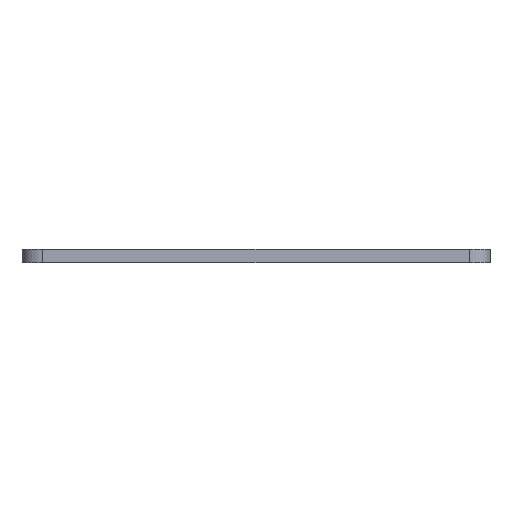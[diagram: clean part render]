
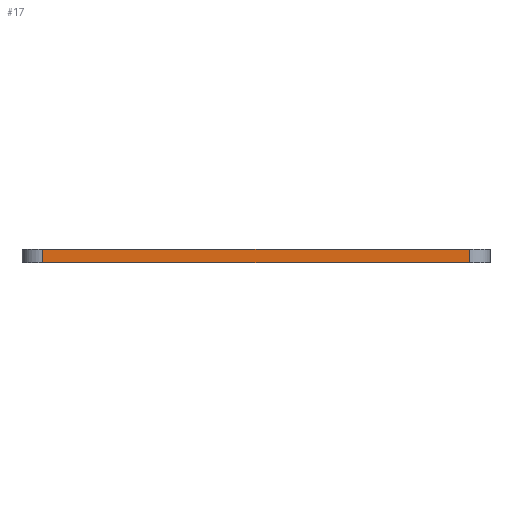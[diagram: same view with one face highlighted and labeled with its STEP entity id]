
A CAD part, left-side view. The second image highlights one B-rep face of the part: STEP entity #17.
In plain terms, the highlighted planar face has unit normal (-1, 0, 0).
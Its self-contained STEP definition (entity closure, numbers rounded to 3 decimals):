
#17 = ADVANCED_FACE('',(#18),#32,.T.);
#18 = FACE_BOUND('',#19,.T.);
#19 = EDGE_LOOP('',(#20,#55,#83,#111));
#20 = ORIENTED_EDGE('',*,*,#21,.T.);
#21 = EDGE_CURVE('',#22,#24,#26,.T.);
#22 = VERTEX_POINT('',#23);
#23 = CARTESIAN_POINT('',(-8.175,-18.913,-5.1));
#24 = VERTEX_POINT('',#25);
#25 = CARTESIAN_POINT('',(-8.175,-18.913,-4.75));
#26 = SURFACE_CURVE('',#27,(#31,#43),.PCURVE_S1.);
#27 = LINE('',#28,#29);
#28 = CARTESIAN_POINT('',(-8.175,-18.913,-5.1));
#29 = VECTOR('',#30,1.);
#30 = DIRECTION('',(0.,0.,1.));
#31 = PCURVE('',#32,#37);
#32 = PLANE('',#33);
#33 = AXIS2_PLACEMENT_3D('',#34,#35,#36);
#34 = CARTESIAN_POINT('',(-8.175,-18.913,-5.1));
#35 = DIRECTION('',(-1.,0.,0.));
#36 = DIRECTION('',(0.,1.,0.));
#37 = DEFINITIONAL_REPRESENTATION('',(#38),#42);
#38 = LINE('',#39,#40);
#39 = CARTESIAN_POINT('',(0.,0.));
#40 = VECTOR('',#41,1.);
#41 = DIRECTION('',(0.,-1.));
#42 = ( GEOMETRIC_REPRESENTATION_CONTEXT(2) 
PARAMETRIC_REPRESENTATION_CONTEXT() REPRESENTATION_CONTEXT('2D SPACE',''
  ) );
#43 = PCURVE('',#44,#49);
#44 = CYLINDRICAL_SURFACE('',#45,0.55);
#45 = AXIS2_PLACEMENT_3D('',#46,#47,#48);
#46 = CARTESIAN_POINT('',(-7.625,-18.913,-5.1));
#47 = DIRECTION('',(-0.,-0.,-1.));
#48 = DIRECTION('',(1.,0.,0.));
#49 = DEFINITIONAL_REPRESENTATION('',(#50),#54);
#50 = LINE('',#51,#52);
#51 = CARTESIAN_POINT('',(-3.142,0.));
#52 = VECTOR('',#53,1.);
#53 = DIRECTION('',(-0.,-1.));
#54 = ( GEOMETRIC_REPRESENTATION_CONTEXT(2) 
PARAMETRIC_REPRESENTATION_CONTEXT() REPRESENTATION_CONTEXT('2D SPACE',''
  ) );
#55 = ORIENTED_EDGE('',*,*,#56,.T.);
#56 = EDGE_CURVE('',#24,#57,#59,.T.);
#57 = VERTEX_POINT('',#58);
#58 = CARTESIAN_POINT('',(-8.175,-7.563,-4.75));
#59 = SURFACE_CURVE('',#60,(#64,#71),.PCURVE_S1.);
#60 = LINE('',#61,#62);
#61 = CARTESIAN_POINT('',(-8.175,-13.238,-4.75));
#62 = VECTOR('',#63,1.);
#63 = DIRECTION('',(0.,1.,0.));
#64 = PCURVE('',#32,#65);
#65 = DEFINITIONAL_REPRESENTATION('',(#66),#70);
#66 = LINE('',#67,#68);
#67 = CARTESIAN_POINT('',(5.675,-0.35));
#68 = VECTOR('',#69,1.);
#69 = DIRECTION('',(1.,0.));
#70 = ( GEOMETRIC_REPRESENTATION_CONTEXT(2) 
PARAMETRIC_REPRESENTATION_CONTEXT() REPRESENTATION_CONTEXT('2D SPACE',''
  ) );
#71 = PCURVE('',#72,#77);
#72 = PLANE('',#73);
#73 = AXIS2_PLACEMENT_3D('',#74,#75,#76);
#74 = CARTESIAN_POINT('',(0.,-13.238,-4.75));
#75 = DIRECTION('',(0.,0.,1.));
#76 = DIRECTION('',(1.,0.,0.));
#77 = DEFINITIONAL_REPRESENTATION('',(#78),#82);
#78 = LINE('',#79,#80);
#79 = CARTESIAN_POINT('',(-8.175,0.));
#80 = VECTOR('',#81,1.);
#81 = DIRECTION('',(0.,1.));
#82 = ( GEOMETRIC_REPRESENTATION_CONTEXT(2) 
PARAMETRIC_REPRESENTATION_CONTEXT() REPRESENTATION_CONTEXT('2D SPACE',''
  ) );
#83 = ORIENTED_EDGE('',*,*,#84,.F.);
#84 = EDGE_CURVE('',#85,#57,#87,.T.);
#85 = VERTEX_POINT('',#86);
#86 = CARTESIAN_POINT('',(-8.175,-7.563,-5.1));
#87 = SURFACE_CURVE('',#88,(#92,#99),.PCURVE_S1.);
#88 = LINE('',#89,#90);
#89 = CARTESIAN_POINT('',(-8.175,-7.563,-5.1));
#90 = VECTOR('',#91,1.);
#91 = DIRECTION('',(0.,0.,1.));
#92 = PCURVE('',#32,#93);
#93 = DEFINITIONAL_REPRESENTATION('',(#94),#98);
#94 = LINE('',#95,#96);
#95 = CARTESIAN_POINT('',(11.35,0.));
#96 = VECTOR('',#97,1.);
#97 = DIRECTION('',(0.,-1.));
#98 = ( GEOMETRIC_REPRESENTATION_CONTEXT(2) 
PARAMETRIC_REPRESENTATION_CONTEXT() REPRESENTATION_CONTEXT('2D SPACE',''
  ) );
#99 = PCURVE('',#100,#105);
#100 = CYLINDRICAL_SURFACE('',#101,0.55);
#101 = AXIS2_PLACEMENT_3D('',#102,#103,#104);
#102 = CARTESIAN_POINT('',(-7.625,-7.563,-5.1));
#103 = DIRECTION('',(-0.,-0.,-1.));
#104 = DIRECTION('',(1.,0.,0.));
#105 = DEFINITIONAL_REPRESENTATION('',(#106),#110);
#106 = LINE('',#107,#108);
#107 = CARTESIAN_POINT('',(-3.142,0.));
#108 = VECTOR('',#109,1.);
#109 = DIRECTION('',(-0.,-1.));
#110 = ( GEOMETRIC_REPRESENTATION_CONTEXT(2) 
PARAMETRIC_REPRESENTATION_CONTEXT() REPRESENTATION_CONTEXT('2D SPACE',''
  ) );
#111 = ORIENTED_EDGE('',*,*,#112,.F.);
#112 = EDGE_CURVE('',#22,#85,#113,.T.);
#113 = SURFACE_CURVE('',#114,(#118,#125),.PCURVE_S1.);
#114 = LINE('',#115,#116);
#115 = CARTESIAN_POINT('',(-8.175,-13.238,-5.1));
#116 = VECTOR('',#117,1.);
#117 = DIRECTION('',(0.,1.,0.));
#118 = PCURVE('',#32,#119);
#119 = DEFINITIONAL_REPRESENTATION('',(#120),#124);
#120 = LINE('',#121,#122);
#121 = CARTESIAN_POINT('',(5.675,0.));
#122 = VECTOR('',#123,1.);
#123 = DIRECTION('',(1.,0.));
#124 = ( GEOMETRIC_REPRESENTATION_CONTEXT(2) 
PARAMETRIC_REPRESENTATION_CONTEXT() REPRESENTATION_CONTEXT('2D SPACE',''
  ) );
#125 = PCURVE('',#126,#131);
#126 = PLANE('',#127);
#127 = AXIS2_PLACEMENT_3D('',#128,#129,#130);
#128 = CARTESIAN_POINT('',(0.,-13.238,-5.1));
#129 = DIRECTION('',(0.,0.,1.));
#130 = DIRECTION('',(1.,0.,0.));
#131 = DEFINITIONAL_REPRESENTATION('',(#132),#136);
#132 = LINE('',#133,#134);
#133 = CARTESIAN_POINT('',(-8.175,0.));
#134 = VECTOR('',#135,1.);
#135 = DIRECTION('',(0.,1.));
#136 = ( GEOMETRIC_REPRESENTATION_CONTEXT(2) 
PARAMETRIC_REPRESENTATION_CONTEXT() REPRESENTATION_CONTEXT('2D SPACE',''
  ) );
